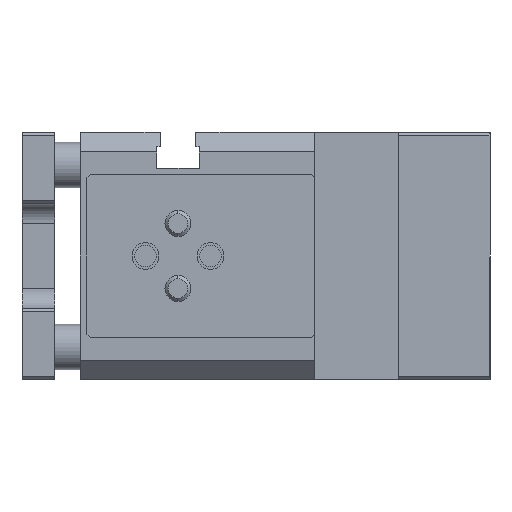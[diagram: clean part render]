
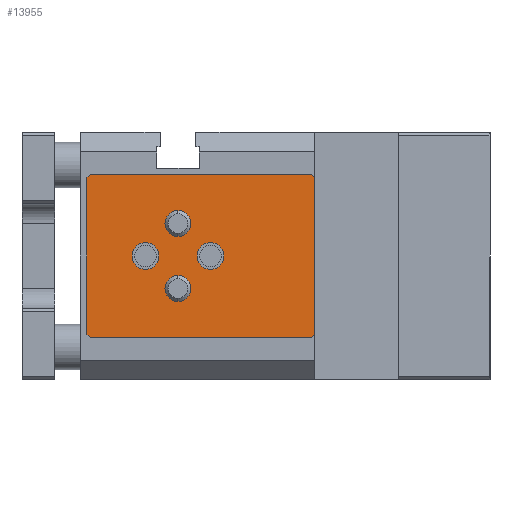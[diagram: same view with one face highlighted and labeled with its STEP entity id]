
A CAD part, left-side view. The second image highlights one B-rep face of the part: STEP entity #13955.
In plain terms, the highlighted planar face has unit normal (-1, 0, 0) as drawn and (1, 0, 0) by its records, which use the part's own axes.
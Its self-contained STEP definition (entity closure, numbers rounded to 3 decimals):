
#1448 = VERTEX_POINT ( 'NONE', #28582 ) ;
#1920 = ORIENTED_EDGE ( 'NONE', *, *, #31664, .F. ) ;
#2334 = VERTEX_POINT ( 'NONE', #40618 ) ;
#2841 = CARTESIAN_POINT ( 'NONE',  ( 0., 21., 7. ) ) ;
#2910 = DIRECTION ( 'NONE',  ( 0., 0.707, 0.707 ) ) ;
#3143 = VERTEX_POINT ( 'NONE', #23505 ) ;
#4124 = AXIS2_PLACEMENT_3D ( 'NONE', #39036, #14810, #43114 ) ;
#4250 = CIRCLE ( 'NONE', #4124, 2. ) ;
#4751 = ORIENTED_EDGE ( 'NONE', *, *, #28151, .F. ) ;
#4999 = AXIS2_PLACEMENT_3D ( 'NONE', #43020, #18741, #47099 ) ;
#5358 = DIRECTION ( 'NONE',  ( 0., 0., -1. ) ) ;
#6574 = EDGE_LOOP ( 'NONE', ( #16923, #36503 ) ) ;
#6753 = VERTEX_POINT ( 'NONE', #52194 ) ;
#7366 = EDGE_LOOP ( 'NONE', ( #15479, #41708 ) ) ;
#7969 = DIRECTION ( 'NONE',  ( 1., 0., 0. ) ) ;
#8023 = VECTOR ( 'NONE', #45774, 1000. ) ;
#8341 = VERTEX_POINT ( 'NONE', #49536 ) ;
#8507 = LINE ( 'NONE', #18417, #20495 ) ;
#8589 = FACE_BOUND ( 'NONE', #6574, .T. ) ;
#8690 = VECTOR ( 'NONE', #5358, 1000. ) ;
#9167 = AXIS2_PLACEMENT_3D ( 'NONE', #46628, #22315, #50724 ) ;
#9848 = FACE_BOUND ( 'NONE', #7366, .T. ) ;
#11011 = VERTEX_POINT ( 'NONE', #19328 ) ;
#11528 = VERTEX_POINT ( 'NONE', #16257 ) ;
#11997 = CARTESIAN_POINT ( 'NONE',  ( 0., 0.5, -12.5 ) ) ;
#12840 = VERTEX_POINT ( 'NONE', #24296 ) ;
#12997 = CIRCLE ( 'NONE', #4999, 2. ) ;
#13779 = CARTESIAN_POINT ( 'NONE',  ( 0., 0., 12. ) ) ;
#13955 = ADVANCED_FACE ( 'NONE', ( #28808, #39608, #8589, #9848, #18034 ), #43653, .F. ) ;
#14041 = VERTEX_POINT ( 'NONE', #11997 ) ;
#14445 = LINE ( 'NONE', #23587, #22616 ) ;
#14487 = VERTEX_POINT ( 'NONE', #36257 ) ;
#14810 = DIRECTION ( 'NONE',  ( 1., 0., 0. ) ) ;
#15058 = EDGE_CURVE ( 'NONE', #30906, #14487, #43371, .T. ) ;
#15479 = ORIENTED_EDGE ( 'NONE', *, *, #26089, .F. ) ;
#15491 = DIRECTION ( 'NONE',  ( -1., 0., 0. ) ) ;
#16055 = LINE ( 'NONE', #28692, #17291 ) ;
#16257 = CARTESIAN_POINT ( 'NONE',  ( 0., 21., -7. ) ) ;
#16431 = EDGE_CURVE ( 'NONE', #6753, #11528, #12997, .T. ) ;
#16609 = CIRCLE ( 'NONE', #29946, 2.05 ) ;
#16923 = ORIENTED_EDGE ( 'NONE', *, *, #48952, .F. ) ;
#17291 = VECTOR ( 'NONE', #49097, 1000. ) ;
#17440 = CARTESIAN_POINT ( 'NONE',  ( 0., 0., 12.5 ) ) ;
#17582 = ORIENTED_EDGE ( 'NONE', *, *, #40719, .T. ) ;
#18034 = FACE_BOUND ( 'NONE', #39156, .T. ) ;
#18417 = CARTESIAN_POINT ( 'NONE',  ( 0., 34.5, -12.5 ) ) ;
#18457 = EDGE_CURVE ( 'NONE', #1448, #25582, #8507, .T. ) ;
#18741 = DIRECTION ( 'NONE',  ( 1., 0., 0. ) ) ;
#19328 = CARTESIAN_POINT ( 'NONE',  ( 0., 21., 3. ) ) ;
#19568 = CIRCLE ( 'NONE', #20001, 2. ) ;
#19646 = DIRECTION ( 'NONE',  ( 1., 0., 0. ) ) ;
#20001 = AXIS2_PLACEMENT_3D ( 'NONE', #24098, #52501, #28181 ) ;
#20495 = VECTOR ( 'NONE', #50866, 1000. ) ;
#21113 = ORIENTED_EDGE ( 'NONE', *, *, #26678, .F. ) ;
#22315 = DIRECTION ( 'NONE',  ( 1., 0., 0. ) ) ;
#22616 = VECTOR ( 'NONE', #47899, 1000. ) ;
#22931 = DIRECTION ( 'NONE',  ( 1., 0., 0. ) ) ;
#23056 = ORIENTED_EDGE ( 'NONE', *, *, #50519, .F. ) ;
#23068 = CARTESIAN_POINT ( 'NONE',  ( 0., 0., 12. ) ) ;
#23505 = CARTESIAN_POINT ( 'NONE',  ( 0., 34.5, 12.5 ) ) ;
#23587 = CARTESIAN_POINT ( 'NONE',  ( 0., 35., 12. ) ) ;
#23961 = DIRECTION ( 'NONE',  ( 1., 0., 0. ) ) ;
#24024 = CARTESIAN_POINT ( 'NONE',  ( 0., 0.5, -12.5 ) ) ;
#24098 = CARTESIAN_POINT ( 'NONE',  ( 0., 21., -5. ) ) ;
#24133 = ORIENTED_EDGE ( 'NONE', *, *, #43101, .F. ) ;
#24296 = CARTESIAN_POINT ( 'NONE',  ( 0., 16., 2.05 ) ) ;
#25582 = VERTEX_POINT ( 'NONE', #50309 ) ;
#25800 = ORIENTED_EDGE ( 'NONE', *, *, #35138, .F. ) ;
#25934 = LINE ( 'NONE', #51274, #28511 ) ;
#26089 = EDGE_CURVE ( 'NONE', #8341, #29004, #37373, .T. ) ;
#26678 = EDGE_CURVE ( 'NONE', #1448, #14041, #25934, .T. ) ;
#26772 = EDGE_LOOP ( 'NONE', ( #29609, #4751 ) ) ;
#26948 = LINE ( 'NONE', #17440, #8023 ) ;
#27951 = EDGE_CURVE ( 'NONE', #12840, #28681, #32870, .T. ) ;
#28105 = DIRECTION ( 'NONE',  ( 0., -0.707, 0.707 ) ) ;
#28151 = EDGE_CURVE ( 'NONE', #11528, #6753, #19568, .T. ) ;
#28181 = DIRECTION ( 'NONE',  ( 0., 0., 1. ) ) ;
#28511 = VECTOR ( 'NONE', #47166, 1000. ) ;
#28582 = CARTESIAN_POINT ( 'NONE',  ( 0., 34.5, -12.5 ) ) ;
#28681 = VERTEX_POINT ( 'NONE', #46325 ) ;
#28692 = CARTESIAN_POINT ( 'NONE',  ( 0., 0., 12.5 ) ) ;
#28808 = FACE_BOUND ( 'NONE', #26772, .T. ) ;
#28816 = LINE ( 'NONE', #24024, #49130 ) ;
#29004 = VERTEX_POINT ( 'NONE', #40826 ) ;
#29575 = CARTESIAN_POINT ( 'NONE',  ( 0., 35., 12.5 ) ) ;
#29609 = ORIENTED_EDGE ( 'NONE', *, *, #16431, .F. ) ;
#29946 = AXIS2_PLACEMENT_3D ( 'NONE', #48250, #23961, #52354 ) ;
#30906 = VERTEX_POINT ( 'NONE', #13779 ) ;
#30968 = AXIS2_PLACEMENT_3D ( 'NONE', #32181, #7969, #36224 ) ;
#31120 = CIRCLE ( 'NONE', #42522, 2. ) ;
#31329 = VERTEX_POINT ( 'NONE', #50937 ) ;
#31429 = EDGE_CURVE ( 'NONE', #11011, #52210, #4250, .T. ) ;
#31664 = EDGE_CURVE ( 'NONE', #31329, #25582, #39703, .T. ) ;
#31852 = CIRCLE ( 'NONE', #30968, 2.05 ) ;
#31977 = ORIENTED_EDGE ( 'NONE', *, *, #15058, .F. ) ;
#32181 = CARTESIAN_POINT ( 'NONE',  ( 0., 16., 0. ) ) ;
#32870 = CIRCLE ( 'NONE', #9167, 2.05 ) ;
#34653 = ORIENTED_EDGE ( 'NONE', *, *, #31429, .F. ) ;
#35138 = EDGE_CURVE ( 'NONE', #14041, #2334, #28816, .T. ) ;
#36224 = DIRECTION ( 'NONE',  ( 0., 0., -1. ) ) ;
#36257 = CARTESIAN_POINT ( 'NONE',  ( 0., 0.5, 12.5 ) ) ;
#36503 = ORIENTED_EDGE ( 'NONE', *, *, #27951, .F. ) ;
#37373 = CIRCLE ( 'NONE', #39317, 2.05 ) ;
#39036 = CARTESIAN_POINT ( 'NONE',  ( 0., 21., 5. ) ) ;
#39156 = EDGE_LOOP ( 'NONE', ( #23056, #34653 ) ) ;
#39317 = AXIS2_PLACEMENT_3D ( 'NONE', #47230, #22931, #51341 ) ;
#39445 = ORIENTED_EDGE ( 'NONE', *, *, #46350, .F. ) ;
#39608 = FACE_OUTER_BOUND ( 'NONE', #40376, .T. ) ;
#39703 = LINE ( 'NONE', #29575, #8690 ) ;
#39738 = CARTESIAN_POINT ( 'NONE',  ( 0., 35., 12.5 ) ) ;
#40376 = EDGE_LOOP ( 'NONE', ( #25800, #21113, #43010, #1920, #17582, #24133, #31977, #39445 ) ) ;
#40618 = CARTESIAN_POINT ( 'NONE',  ( 0., 0., -12. ) ) ;
#40719 = EDGE_CURVE ( 'NONE', #31329, #3143, #14445, .T. ) ;
#40826 = CARTESIAN_POINT ( 'NONE',  ( 0., 26., 2.05 ) ) ;
#41708 = ORIENTED_EDGE ( 'NONE', *, *, #49563, .F. ) ;
#42522 = AXIS2_PLACEMENT_3D ( 'NONE', #43910, #19646, #48014 ) ;
#43010 = ORIENTED_EDGE ( 'NONE', *, *, #18457, .T. ) ;
#43020 = CARTESIAN_POINT ( 'NONE',  ( 0., 21., -5. ) ) ;
#43101 = EDGE_CURVE ( 'NONE', #14487, #3143, #26948, .T. ) ;
#43114 = DIRECTION ( 'NONE',  ( 0., 0., 1. ) ) ;
#43371 = LINE ( 'NONE', #23068, #44659 ) ;
#43653 = PLANE ( 'NONE',  #49759 ) ;
#43807 = DIRECTION ( 'NONE',  ( 0., 0., 1. ) ) ;
#43910 = CARTESIAN_POINT ( 'NONE',  ( 0., 21., 5. ) ) ;
#44659 = VECTOR ( 'NONE', #2910, 1000. ) ;
#45774 = DIRECTION ( 'NONE',  ( 0., 1., 0. ) ) ;
#46325 = CARTESIAN_POINT ( 'NONE',  ( 0., 16., -2.05 ) ) ;
#46350 = EDGE_CURVE ( 'NONE', #2334, #30906, #16055, .T. ) ;
#46628 = CARTESIAN_POINT ( 'NONE',  ( 0., 16., 0. ) ) ;
#47099 = DIRECTION ( 'NONE',  ( 0., 0., 1. ) ) ;
#47166 = DIRECTION ( 'NONE',  ( 0., -1., 0. ) ) ;
#47230 = CARTESIAN_POINT ( 'NONE',  ( 0., 26., 0. ) ) ;
#47899 = DIRECTION ( 'NONE',  ( 0., -0.707, 0.707 ) ) ;
#48014 = DIRECTION ( 'NONE',  ( 0., 0., 1. ) ) ;
#48250 = CARTESIAN_POINT ( 'NONE',  ( 0., 26., 0. ) ) ;
#48952 = EDGE_CURVE ( 'NONE', #28681, #12840, #31852, .T. ) ;
#49097 = DIRECTION ( 'NONE',  ( 0., 0., 1. ) ) ;
#49130 = VECTOR ( 'NONE', #28105, 1000. ) ;
#49536 = CARTESIAN_POINT ( 'NONE',  ( 0., 26., -2.05 ) ) ;
#49563 = EDGE_CURVE ( 'NONE', #29004, #8341, #16609, .T. ) ;
#49759 = AXIS2_PLACEMENT_3D ( 'NONE', #39738, #15491, #43807 ) ;
#50309 = CARTESIAN_POINT ( 'NONE',  ( 0., 35., -12. ) ) ;
#50519 = EDGE_CURVE ( 'NONE', #52210, #11011, #31120, .T. ) ;
#50724 = DIRECTION ( 'NONE',  ( 0., 0., -1. ) ) ;
#50866 = DIRECTION ( 'NONE',  ( 0., 0.707, 0.707 ) ) ;
#50937 = CARTESIAN_POINT ( 'NONE',  ( 0., 35., 12. ) ) ;
#51274 = CARTESIAN_POINT ( 'NONE',  ( 0., 0., -12.5 ) ) ;
#51341 = DIRECTION ( 'NONE',  ( 0., 0., -1. ) ) ;
#52194 = CARTESIAN_POINT ( 'NONE',  ( 0., 21., -3. ) ) ;
#52210 = VERTEX_POINT ( 'NONE', #2841 ) ;
#52354 = DIRECTION ( 'NONE',  ( 0., 0., -1. ) ) ;
#52501 = DIRECTION ( 'NONE',  ( 1., 0., 0. ) ) ;
